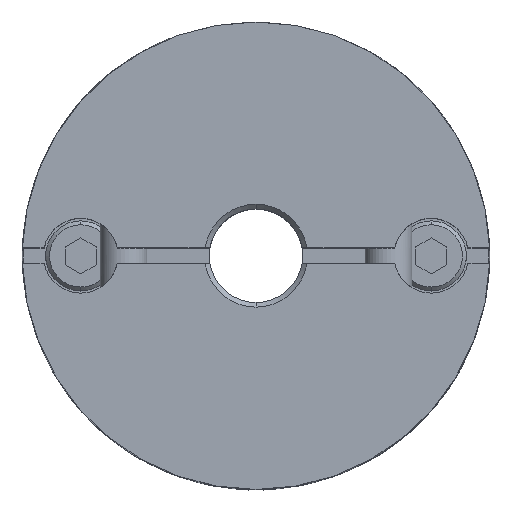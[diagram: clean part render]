
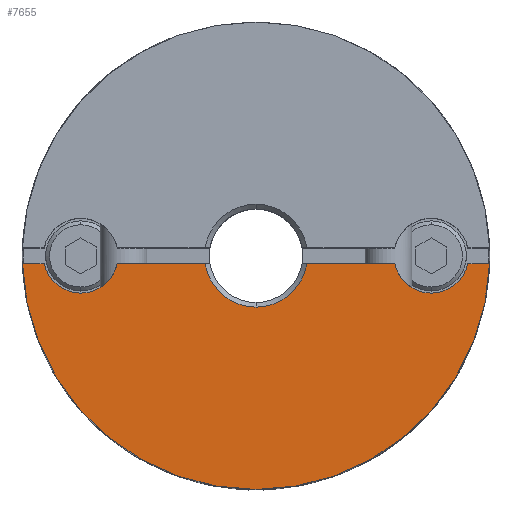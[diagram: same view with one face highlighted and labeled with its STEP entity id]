
A CAD part, top view. The second image highlights one B-rep face of the part: STEP entity #7655.
In plain terms, the highlighted planar face has unit normal (0, 0, 1).
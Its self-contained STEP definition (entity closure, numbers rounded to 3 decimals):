
#622=CARTESIAN_POINT('',(0.,-15.0,11.8));
#623=VERTEX_POINT('',#622);
#630=CARTESIAN_POINT('',(-14.992,-0.5,11.8));
#631=VERTEX_POINT('',#630);
#632=CARTESIAN_POINT('',(0.0,0.0,11.8));
#633=DIRECTION('',(0.0,0.0,-1.0));
#634=DIRECTION('',(0.0,1.0,0.0));
#635=AXIS2_PLACEMENT_3D('',#632,#633,#634);
#636=CIRCLE('',#635,15.0);
#637=EDGE_CURVE('',#623,#631,#636,.T.);
#1032=CARTESIAN_POINT('',(0.,-3.3,11.8));
#1033=VERTEX_POINT('',#1032);
#1041=CARTESIAN_POINT('',(-3.262,-0.5,11.8));
#1042=VERTEX_POINT('',#1041);
#1056=CARTESIAN_POINT('',(0.0,0.0,11.8));
#1057=DIRECTION('',(0.0,0.0,1.0));
#1058=DIRECTION('',(0.0,-1.0,0.0));
#1059=AXIS2_PLACEMENT_3D('',#1056,#1057,#1058);
#1060=CIRCLE('',#1059,3.3);
#1061=EDGE_CURVE('',#1042,#1033,#1060,.T.);
#1353=CARTESIAN_POINT('',(-11.25,-2.4,11.8));
#1354=VERTEX_POINT('',#1353);
#1370=CARTESIAN_POINT('',(-13.597,-0.5,11.8));
#1371=VERTEX_POINT('',#1370);
#1378=CARTESIAN_POINT('',(-11.25,0.,11.8));
#1379=DIRECTION('',(0.0,0.0,-1.0));
#1380=DIRECTION('',(0.0,1.0,0.0));
#1381=AXIS2_PLACEMENT_3D('',#1378,#1379,#1380);
#1382=CIRCLE('',#1381,2.4);
#1383=EDGE_CURVE('',#1354,#1371,#1382,.T.);
#1585=CARTESIAN_POINT('',(11.25,-2.4,11.8));
#1586=VERTEX_POINT('',#1585);
#1652=CARTESIAN_POINT('',(8.903,-0.5,11.8));
#1653=VERTEX_POINT('',#1652);
#1660=CARTESIAN_POINT('',(11.25,0.,11.8));
#1661=DIRECTION('',(0.0,0.0,-1.0));
#1662=DIRECTION('',(0.0,1.0,0.0));
#1663=AXIS2_PLACEMENT_3D('',#1660,#1661,#1662);
#1664=CIRCLE('',#1663,2.4);
#1665=EDGE_CURVE('',#1586,#1653,#1664,.T.);
#6153=CARTESIAN_POINT('',(13.597,-0.5,11.8));
#6154=VERTEX_POINT('',#6153);
#6155=CARTESIAN_POINT('',(11.25,0.,11.8));
#6156=DIRECTION('',(0.0,0.0,-1.0));
#6157=DIRECTION('',(0.0,1.0,0.0));
#6158=AXIS2_PLACEMENT_3D('',#6155,#6156,#6157);
#6159=CIRCLE('',#6158,2.4);
#6160=EDGE_CURVE('',#6154,#1586,#6159,.T.);
#6560=CARTESIAN_POINT('',(-8.903,-0.5,11.8));
#6561=VERTEX_POINT('',#6560);
#6562=CARTESIAN_POINT('',(-11.25,0.,11.8));
#6563=DIRECTION('',(0.0,0.0,-1.0));
#6564=DIRECTION('',(0.0,1.0,0.0));
#6565=AXIS2_PLACEMENT_3D('',#6562,#6563,#6564);
#6566=CIRCLE('',#6565,2.4);
#6567=EDGE_CURVE('',#6561,#1354,#6566,.T.);
#6690=CARTESIAN_POINT('',(-3.262,-0.5,11.8));
#6691=DIRECTION('',(-1.0,0.0,0.0));
#6692=VECTOR('',#6691,5.641);
#6693=LINE('',#6690,#6692);
#6694=EDGE_CURVE('',#1042,#6561,#6693,.T.);
#6807=CARTESIAN_POINT('',(3.262,-0.5,11.8));
#6808=VERTEX_POINT('',#6807);
#6822=CARTESIAN_POINT('',(8.903,-0.5,11.8));
#6823=DIRECTION('',(-1.0,0.0,0.0));
#6824=VECTOR('',#6823,5.641);
#6825=LINE('',#6822,#6824);
#6826=EDGE_CURVE('',#1653,#6808,#6825,.T.);
#7402=CARTESIAN_POINT('',(14.992,-0.5,11.8));
#7403=VERTEX_POINT('',#7402);
#7404=CARTESIAN_POINT('',(14.992,-0.5,11.8));
#7405=DIRECTION('',(-1.0,0.0,0.0));
#7406=VECTOR('',#7405,1.394);
#7407=LINE('',#7404,#7406);
#7408=EDGE_CURVE('',#7403,#6154,#7407,.T.);
#7522=CARTESIAN_POINT('',(-13.597,-0.5,11.8));
#7523=DIRECTION('',(-1.0,0.0,0.0));
#7524=VECTOR('',#7523,1.394);
#7525=LINE('',#7522,#7524);
#7526=EDGE_CURVE('',#1371,#631,#7525,.T.);
#7624=CARTESIAN_POINT('',(0.,1.364,11.8));
#7625=DIRECTION('',(0.0,0.0,1.0));
#7626=DIRECTION('',(0.0,1.0,0.0));
#7627=AXIS2_PLACEMENT_3D('',#7624,#7625,#7626);
#7628=PLANE('',#7627);
#7629=ORIENTED_EDGE('',*,*,#6160,.T.);
#7630=ORIENTED_EDGE('',*,*,#1665,.T.);
#7631=ORIENTED_EDGE('',*,*,#6826,.T.);
#7632=CARTESIAN_POINT('',(0.0,0.0,11.8));
#7633=DIRECTION('',(0.0,0.0,1.0));
#7634=DIRECTION('',(0.0,-1.0,0.0));
#7635=AXIS2_PLACEMENT_3D('',#7632,#7633,#7634);
#7636=CIRCLE('',#7635,3.3);
#7637=EDGE_CURVE('',#1033,#6808,#7636,.T.);
#7638=ORIENTED_EDGE('',*,*,#7637,.F.);
#7639=ORIENTED_EDGE('',*,*,#1061,.F.);
#7640=ORIENTED_EDGE('',*,*,#6694,.T.);
#7641=ORIENTED_EDGE('',*,*,#6567,.T.);
#7642=ORIENTED_EDGE('',*,*,#1383,.T.);
#7643=ORIENTED_EDGE('',*,*,#7526,.T.);
#7644=ORIENTED_EDGE('',*,*,#637,.F.);
#7645=CARTESIAN_POINT('',(0.0,0.0,11.8));
#7646=DIRECTION('',(0.0,0.0,-1.0));
#7647=DIRECTION('',(0.0,1.0,0.0));
#7648=AXIS2_PLACEMENT_3D('',#7645,#7646,#7647);
#7649=CIRCLE('',#7648,15.0);
#7650=EDGE_CURVE('',#7403,#623,#7649,.T.);
#7651=ORIENTED_EDGE('',*,*,#7650,.F.);
#7652=ORIENTED_EDGE('',*,*,#7408,.T.);
#7653=EDGE_LOOP('',(#7629,#7630,#7631,#7638,#7639,#7640,#7641,#7642,#7643,#7644,#7651,#7652));
#7654=FACE_OUTER_BOUND('',#7653,.T.);
#7655=ADVANCED_FACE('',(#7654),#7628,.T.);
